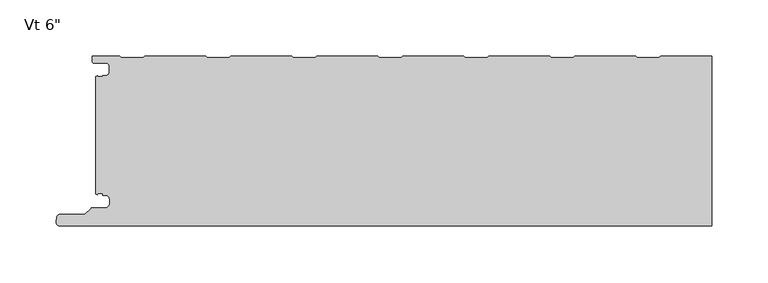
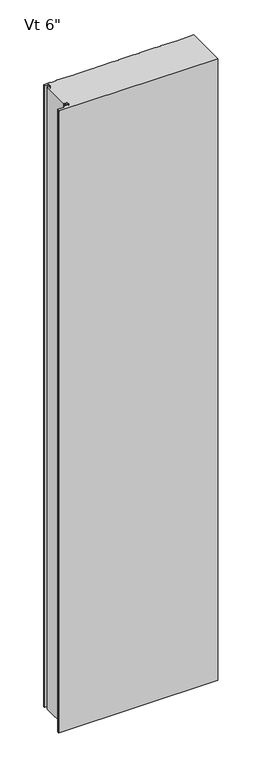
"""IFC4 building model written with IfcOpenShell, lengths in millimetres: plate geometry."""

from ifc_helpers import new_model, si_unit, frame, origin, place, context, project, spatial, polyline, circle_curve, source, transform, mapped, element, save
from ifc_brep_helpers import plane_surface, cylinder_surface, revolved_surface, advanced_brep


def plate_54b02bbf(model_context):
    return source(origin(), model_context, "Body", "AdvancedBrep", [
        advanced_brep(
        [(-271.7683, -124.070875, 2400.0), (-270.567176, -122.9014003, 2400.0), (-266.8087826, -122.9014003, 2400.0), (-266.8087826, -124.2998791, 2400.0), (-264.1096715, -124.2998791, 2400.0), (-260.7596762, -127.6498744, 2400.0), (-260.7596762, -132.0498656, 2400.0), (-264.1096715, -135.3998609, 2400.0), (-275.9205606, -135.3998609, 2400.0), (-277.1226383, -135.8977778, 2400.0), (-282.6247094, -141.3998489, 2400.0), (-304.7198391, -141.3998489, 2400.0), (-307.3765707, -143.6184509, 2400.0), (-307.8125697, -148.6002718, 2400.0), (-305.2521175, -151.3945967, 2400.0), (272.7999998, -151.4, 2400.0), (272.7999998, -1.0, 2400.0), (227.5795537, -1.0, 2400.0), (226.1939207, -2.2002307, 2400.0), (206.8187544, -2.2002307, 2400.0), (205.4331215, -1.0, 2400.0), (151.3797061, -1.0, 2400.0), (149.9940731, -2.2002307, 2400.0), (130.6189068, -2.2002307, 2400.0), (129.2332739, -1.0, 2400.0), (75.1798585, -1.0, 2400.0), (73.7942255, -2.2002307, 2400.0), (54.4190592, -2.2002307, 2400.0), (53.0334263, -1.0, 2400.0), (-1.0199891, -1.0, 2400.0), (-2.4056221, -2.2002307, 2400.0), (-21.7807884, -2.2002307, 2400.0), (-23.1664213, -1.0, 2400.0), (-77.2198367, -1.0, 2400.0), (-78.6054697, -2.2002307, 2400.0), (-97.980636, -2.2002307, 2400.0), (-99.3662689, -1.0, 2400.0), (-153.4196843, -1.0, 2400.0), (-154.8053173, -2.2002307, 2400.0), (-174.1804836, -2.2002307, 2400.0), (-175.5661165, -1.0, 2400.0), (-229.6195319, -1.0, 2400.0), (-231.0051649, -2.2002307, 2400.0), (-250.3803312, -2.2002307, 2400.0), (-251.7659738, -0.9999916, 2400.0), (-276.2662504, -0.9999916, 2400.0), (-276.2662504, -5.2315389, 2400.0), (-274.4962562, -7.0015331, 2400.0), (-264.0762777, -7.0015331, 2400.0), (-260.7762818, -10.301529, 2400.0), (-260.7762818, -14.7015202, 2400.0), (-264.0762775, -18.0015159, 2400.0), (-266.7684873, -18.0015159, 2400.0), (-266.7684873, -19.0015105, 2400.0), (-270.768691, -19.0015105, 2400.0), (-271.7686882, -18.0015192, 2400.0), (-272.7999998, -19.0328308, 2400.0), (-272.7999998, -123.0391751, 2400.0), (-271.7683, -124.070875, 0.0), (-272.7999998, -123.0391751, 0.0), (-272.7999998, -19.0328308, 0.0), (-271.7686882, -18.0015192, 0.0), (-270.768691, -19.0015105, 0.0), (-266.7684873, -19.0015105, 0.0), (-266.7684873, -18.0015159, 0.0), (-264.0762775, -18.0015159, 0.0), (-260.7762818, -14.7015202, 0.0), (-260.7762818, -10.301529, 0.0), (-264.0762777, -7.0015331, 0.0), (-274.4962562, -7.0015331, 0.0), (-276.2662504, -5.2315389, 0.0), (-276.2662504, -0.9999916, 0.0), (-251.7659738, -0.9999916, 0.0), (-250.3803312, -2.2002307, 0.0), (-231.0051649, -2.2002307, 0.0), (-229.6195319, -1.0, 0.0), (-175.5661165, -1.0, 0.0), (-174.1804836, -2.2002307, 0.0), (-154.8053173, -2.2002307, 0.0), (-153.4196843, -1.0, 0.0), (-99.3662689, -1.0, 0.0), (-97.980636, -2.2002307, 0.0), (-78.6054697, -2.2002307, 0.0), (-77.2198367, -1.0, 0.0), (-23.1664213, -1.0, 0.0), (-21.7807884, -2.2002307, 0.0), (-2.4056221, -2.2002307, 0.0), (-1.0199891, -1.0, 0.0), (53.0334263, -1.0, 0.0), (54.4190592, -2.2002307, 0.0), (73.7942255, -2.2002307, 0.0), (75.1798585, -1.0, 0.0), (129.2332739, -1.0, 0.0), (130.6189068, -2.2002307, 0.0), (149.9940731, -2.2002307, 0.0), (151.3797061, -1.0, 0.0), (205.4331215, -1.0, 0.0), (206.8187544, -2.2002307, 0.0), (226.1939207, -2.2002307, 0.0), (227.5795537, -1.0, 0.0), (272.7999998, -1.0, 0.0), (272.7999998, -151.4, 0.0), (-305.2521175, -151.4, 0.0), (-307.8125697, -148.6002718, 0.0), (-307.3765707, -143.6184509, 0.0), (-304.7198391, -141.3998489, 0.0), (-282.6247094, -141.3998489, 0.0), (-277.1226383, -135.8977778, 0.0), (-275.9205606, -135.3998609, 0.0), (-264.1096715, -135.3998609, 0.0), (-260.7596762, -132.0498656, 0.0), (-260.7596762, -127.6498744, 0.0), (-264.1096715, -124.2998791, 0.0), (-266.8087826, -124.2998791, 0.0), (-266.8087826, -122.9014003, 0.0), (-270.567176, -122.9014003, 0.0)],
        [
            (0, 1, circle_curve(frame((-270.5686906, -124.1013969, 2400.0), z_axis=(0.0, 0.0, -1.0), x_axis=(-1.0, 0.0, 0.0)), 1.1999976)),
            (1, 2),
            (2, 3),
            (3, 4),
            (4, 5, circle_curve(frame((-264.1096715, -127.6498744, 2400.0), z_axis=(0.0, 0.0, -1.0), x_axis=(-1.0, 0.0, 0.0)), 3.3499953)),
            (5, 6),
            (6, 7, circle_curve(frame((-264.1096715, -132.0498656, 2400.0), z_axis=(0.0, 0.0, -1.0), x_axis=(-1.0, 0.0, 0.0)), 3.3499953)),
            (7, 8),
            (8, 9, circle_curve(frame((-275.9205606, -137.0998555, 2400.0), z_axis=(0.0, 0.0, 1.0), x_axis=(-1.0, 0.0, 0.0)), 1.6999946)),
            (9, 10),
            (10, 11),
            (11, 12, circle_curve(frame((-304.7198391, -144.0998415, 2400.0), z_axis=(0.0, 0.0, 1.0), x_axis=(-1.0, 0.0, 0.0)), 2.6999926)),
            (12, 13),
            (13, 14, circle_curve(frame((-305.2521175, -148.8243575, 2400.0), z_axis=(0.0, 0.0, 1.0), x_axis=(-1.0, 0.0, 0.0)), 2.5702393)),
            (14, 15),
            (15, 16),
            (16, 17),
            (17, 18),
            (18, 19),
            (19, 20),
            (20, 21),
            (21, 22),
            (22, 23),
            (23, 24),
            (24, 25),
            (25, 26),
            (26, 27),
            (27, 28),
            (28, 29),
            (29, 30),
            (30, 31),
            (31, 32),
            (32, 33),
            (33, 34),
            (34, 35),
            (35, 36),
            (36, 37),
            (37, 38),
            (38, 39),
            (39, 40),
            (40, 41),
            (41, 42),
            (42, 43),
            (43, 44),
            (44, 45),
            (45, 46),
            (46, 47, circle_curve(frame((-274.4962562, -5.2315389, 2400.0), z_axis=(0.0, 0.0, 1.0), x_axis=(1.0, 0.0, 0.0)), 1.7699942)),
            (47, 48),
            (48, 49, circle_curve(frame((-264.0762777, -10.301529, 2400.0), z_axis=(0.0, 0.0, -1.0), x_axis=(1.0, 0.0, 0.0)), 3.2999959)),
            (49, 50),
            (50, 51, circle_curve(frame((-264.0762775, -14.7015202, 2400.0), z_axis=(0.0, 0.0, -1.0), x_axis=(1.0, 0.0, 0.0)), 3.2999957)),
            (51, 52),
            (52, 53),
            (53, 54),
            (54, 55, circle_curve(frame((-270.768691, -18.0015133, 2400.0), z_axis=(0.0, 0.0, -1.0), x_axis=(1.0, 0.0, 0.0)), 0.9999972)),
            (55, 56),
            (56, 57),
            (57, 0),
            (58, 59),
            (59, 60),
            (60, 61),
            (61, 62, circle_curve(frame((-270.768691, -18.0015133, 0.0), z_axis=(0.0, 0.0, 1.0), x_axis=(1.0, 0.0, 0.0)), 0.9999972)),
            (62, 63),
            (63, 64),
            (64, 65),
            (65, 66, circle_curve(frame((-264.0762775, -14.7015202, 0.0), z_axis=(0.0, 0.0, 1.0), x_axis=(1.0, 0.0, 0.0)), 3.2999957)),
            (66, 67),
            (67, 68, circle_curve(frame((-264.0762777, -10.301529, 0.0), z_axis=(0.0, 0.0, 1.0), x_axis=(1.0, 0.0, 0.0)), 3.2999959)),
            (68, 69),
            (69, 70, circle_curve(frame((-274.4962562, -5.2315389, 0.0), z_axis=(0.0, 0.0, -1.0), x_axis=(1.0, 0.0, 0.0)), 1.7699942)),
            (70, 71),
            (71, 72),
            (72, 73),
            (73, 74),
            (74, 75),
            (75, 76),
            (76, 77),
            (77, 78),
            (78, 79),
            (79, 80),
            (80, 81),
            (81, 82),
            (82, 83),
            (83, 84),
            (84, 85),
            (85, 86),
            (86, 87),
            (87, 88),
            (88, 89),
            (89, 90),
            (90, 91),
            (91, 92),
            (92, 93),
            (93, 94),
            (94, 95),
            (95, 96),
            (96, 97),
            (97, 98),
            (98, 99),
            (99, 100),
            (100, 101),
            (101, 102),
            (102, 103, circle_curve(frame((-305.2521175, -148.8243575, 0.0), z_axis=(0.0, 0.0, -1.0), x_axis=(-1.0, 0.0, 0.0)), 2.5702393)),
            (103, 104),
            (104, 105, circle_curve(frame((-304.7198391, -144.0998415, 0.0), z_axis=(0.0, 0.0, -1.0), x_axis=(-1.0, 0.0, 0.0)), 2.6999926)),
            (105, 106),
            (106, 107),
            (107, 108, circle_curve(frame((-275.9205606, -137.0998555, 0.0), z_axis=(0.0, 0.0, -1.0), x_axis=(-1.0, 0.0, 0.0)), 1.6999946)),
            (108, 109),
            (109, 110, circle_curve(frame((-264.1096715, -132.0498656, 0.0), z_axis=(0.0, 0.0, 1.0), x_axis=(-1.0, 0.0, 0.0)), 3.3499953)),
            (110, 111),
            (111, 112, circle_curve(frame((-264.1096715, -127.6498744, 0.0), z_axis=(0.0, 0.0, 1.0), x_axis=(-1.0, 0.0, 0.0)), 3.3499953)),
            (112, 113),
            (113, 114),
            (114, 115),
            (115, 58, circle_curve(frame((-270.5686906, -124.1013969, 0.0), z_axis=(0.0, 0.0, 1.0), x_axis=(-1.0, 0.0, 0.0)), 1.1999976)),
            (57, 59),
            (58, 0),
            (56, 60),
            (101, 15),
            (14, 102),
            (13, 103),
            (12, 104),
            (11, 105),
            (10, 106),
            (9, 107),
            (8, 108),
            (7, 109),
            (6, 110),
            (5, 111),
            (4, 112),
            (3, 113),
            (2, 114),
            (1, 115),
            (55, 61),
            (54, 62),
            (53, 63),
            (52, 64),
            (51, 65),
            (50, 66),
            (49, 67),
            (48, 68),
            (47, 69),
            (46, 70),
            (45, 71),
            (44, 72),
            (100, 16),
            (43, 73),
            (42, 74),
            (41, 75),
            (40, 76),
            (39, 77),
            (38, 78),
            (37, 79),
            (36, 80),
            (35, 81),
            (34, 82),
            (33, 83),
            (32, 84),
            (31, 85),
            (30, 86),
            (29, 87),
            (28, 88),
            (27, 89),
            (26, 90),
            (25, 91),
            (24, 92),
            (23, 93),
            (22, 94),
            (21, 95),
            (20, 96),
            (19, 97),
            (18, 98),
            (17, 99),
        ],
        [
            plane_surface(frame((184.4000002, -151.4, 2400.0), z_axis=(0.0, 0.0, 1.0), x_axis=(0.0, -1.0, 0.0))),
            plane_surface(frame((184.4000002, -151.4, 0.0), z_axis=(0.0, 0.0, -1.0), x_axis=(0.0, -1.0, 0.0))),
            plane_surface(frame((-271.7683, -124.070875, 2400.0), z_axis=(-0.707106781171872, -0.7071067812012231, 0.0), x_axis=(0.0, 0.0, -1.0))),
            plane_surface(frame((-272.7999998, -123.0391751, 2400.0), z_axis=(-1.0, 0.0, 0.0), x_axis=(0.0, 0.0, -1.0))),
            plane_surface(frame((593.1156221, -151.4, 2400.0), z_axis=(0.0, -1.0, 0.0), x_axis=(0.0, 0.0, -1.0))),
            cylinder_surface(frame((-305.2521175, -148.8243575, 2400.0), z_axis=(0.0, 0.0, 1.0), x_axis=(-1.0, 0.0, 0.0)), 2.5702393),
            plane_surface(frame((-307.8125697, -148.6002718, 2400.0), z_axis=(-0.9961921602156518, 0.08718474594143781, 0.0), x_axis=(0.0, 0.0, -1.0))),
            cylinder_surface(frame((-304.7198391, -144.0998415, 2400.0), z_axis=(0.0, 0.0, 1.0), x_axis=(-1.0, 0.0, 0.0)), 2.6999926),
            plane_surface(frame((-304.7198391, -141.3998489, 2400.0), z_axis=(0.0, 1.0, 0.0), x_axis=(0.0, 0.0, -1.0))),
            plane_surface(frame((-282.6247094, -141.3998489, 2400.0), z_axis=(-0.707106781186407, 0.7071067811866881, 0.0), x_axis=(0.0, 0.0, -1.0))),
            cylinder_surface(frame((-275.9205606, -137.0998555, 2400.0), z_axis=(0.0, 0.0, 1.0), x_axis=(-1.0, 0.0, 0.0)), 1.6999946),
            plane_surface(frame((-275.9205606, -135.3998609, 2400.0), z_axis=(0.0, 1.0, 0.0), x_axis=(0.0, 0.0, -1.0))),
            revolved_surface(polyline([(-267.4596668, -132.0498656, 0.0), (-267.4596668, -132.0498656, 2400.0)]), (-264.1096715, -132.0498656, 2400.0), (0.0, 0.0, -1.0)),
            plane_surface(frame((-260.7596762, -132.0498656, 2400.0), z_axis=(-1.0, 0.0, 0.0), x_axis=(0.0, 0.0, -1.0))),
            revolved_surface(polyline([(-267.4596668, -127.6498744, 0.0), (-267.4596668, -127.6498744, 2400.0)]), (-264.1096715, -127.6498744, 2400.0), (0.0, 0.0, -1.0)),
            plane_surface(frame((-264.1096715, -124.2998791, 2400.0), z_axis=(0.0, -1.0, 0.0), x_axis=(0.0, 0.0, -1.0))),
            plane_surface(frame((-266.8087826, -124.2998791, 2400.0), z_axis=(-1.0, 0.0, 0.0), x_axis=(0.0, 0.0, -1.0))),
            plane_surface(frame((-266.8087826, -122.9014003, 2400.0), z_axis=(0.0, -1.0, 0.0), x_axis=(0.0, 0.0, -1.0))),
            revolved_surface(polyline([(-271.76868820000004, -124.1013969, 0.0), (-271.76868820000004, -124.1013969, 2400.0)]), (-270.5686906, -124.1013969, 2400.0), (0.0, 0.0, -1.0)),
            plane_surface(frame((-272.7999998, -19.0328308, 2400.0), z_axis=(-0.7071067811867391, 0.707106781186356, 0.0), x_axis=(0.0, 0.0, -1.0))),
            revolved_surface(polyline([(-269.7686938, -18.0015133, 0.0), (-269.7686938, -18.0015133, 2400.0)]), (-270.768691, -18.0015133, 2400.0), (0.0, 0.0, -1.0)),
            plane_surface(frame((-270.768691, -19.0015105, 2400.0), z_axis=(0.0, 1.0, 0.0), x_axis=(0.0, 0.0, -1.0))),
            plane_surface(frame((-266.7684873, -19.0015105, 2400.0), z_axis=(-1.0, 0.0, 0.0), x_axis=(0.0, 0.0, -1.0))),
            plane_surface(frame((-266.7684873, -18.0015159, 2400.0), z_axis=(0.0, 1.0, 0.0), x_axis=(0.0, 0.0, -1.0))),
            revolved_surface(polyline([(-260.7762818, -14.7015202, 0.0), (-260.7762818, -14.7015202, 2400.0)]), (-264.0762775, -14.7015202, 2400.0), (0.0, 0.0, -1.0)),
            plane_surface(frame((-260.7762818, -14.7015202, 2400.0), z_axis=(-1.0, 0.0, 0.0), x_axis=(0.0, 0.0, -1.0))),
            revolved_surface(polyline([(-260.7762818, -10.301529, 0.0), (-260.7762818, -10.301529, 2400.0)]), (-264.0762777, -10.301529, 2400.0), (0.0, 0.0, -1.0)),
            plane_surface(frame((-264.0762777, -7.0015331, 2400.0), z_axis=(0.0, -1.0, 0.0), x_axis=(0.0, 0.0, -1.0))),
            cylinder_surface(frame((-274.4962562, -5.2315389, 2400.0), z_axis=(0.0, 0.0, 1.0), x_axis=(1.0, 0.0, 0.0)), 1.7699942),
            plane_surface(frame((-276.2662504, -5.2315389, 2400.0), z_axis=(-1.0, 0.0, 0.0), x_axis=(0.0, 0.0, -1.0))),
            plane_surface(frame((-276.2662504, -0.9999916, 2400.0), z_axis=(0.0, 1.0, 0.0), x_axis=(0.0, 0.0, -1.0))),
            plane_surface(frame((272.7999998, -162.4, 2400.0), z_axis=(1.0, 0.0, 0.0), x_axis=(0.0, 0.0, -1.0))),
            plane_surface(frame((-251.7659738, -0.9999916, 2400.0), z_axis=(0.6547276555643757, 0.7558648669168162, 0.0), x_axis=(0.0, 0.0, -1.0))),
            plane_surface(frame((-250.3803312, -2.2002307, 2400.0), z_axis=(0.0, 1.0, 0.0), x_axis=(0.0, 0.0, -1.0))),
            plane_surface(frame((-231.0051649, -2.2002307, 2400.0), z_axis=(-0.6547276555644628, 0.7558648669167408, 0.0), x_axis=(0.0, 0.0, -1.0))),
            plane_surface(frame((-229.6195319, -1.0, 2400.0), z_axis=(0.0, 1.0, 0.0), x_axis=(0.0, 0.0, -1.0))),
            plane_surface(frame((-175.5661165, -1.0, 2400.0), z_axis=(0.6547276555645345, 0.7558648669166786, 0.0), x_axis=(0.0, 0.0, -1.0))),
            plane_surface(frame((-174.1804836, -2.2002307, 2400.0), z_axis=(0.0, 1.0, 0.0), x_axis=(0.0, 0.0, -1.0))),
            plane_surface(frame((-154.8053173, -2.2002307, 2400.0), z_axis=(-0.654727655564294, 0.755864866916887, 0.0), x_axis=(0.0, 0.0, -1.0))),
            plane_surface(frame((-153.4196843, -1.0, 2400.0), z_axis=(0.0, 1.0, 0.0), x_axis=(0.0, 0.0, -1.0))),
            plane_surface(frame((-99.3662689, -1.0, 2400.0), z_axis=(0.6547276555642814, 0.7558648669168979, 0.0), x_axis=(0.0, 0.0, -1.0))),
            plane_surface(frame((-97.980636, -2.2002307, 2400.0), z_axis=(0.0, 1.0, 0.0), x_axis=(0.0, 0.0, -1.0))),
            plane_surface(frame((-78.6054697, -2.2002307, 2400.0), z_axis=(-0.6547276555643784, 0.7558648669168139, 0.0), x_axis=(0.0, 0.0, -1.0))),
            plane_surface(frame((-77.2198367, -1.0, 2400.0), z_axis=(0.0, 1.0, 0.0), x_axis=(0.0, 0.0, -1.0))),
            plane_surface(frame((-23.1664213, -1.0, 2400.0), z_axis=(0.6547276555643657, 0.7558648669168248, 0.0), x_axis=(0.0, 0.0, -1.0))),
            plane_surface(frame((-21.7807884, -2.2002307, 2400.0), z_axis=(0.0, 1.0, 0.0), x_axis=(0.0, 0.0, -1.0))),
            plane_surface(frame((-2.4056221, -2.2002307, 2400.0), z_axis=(-0.6547276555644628, 0.7558648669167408, 0.0), x_axis=(0.0, 0.0, -1.0))),
            plane_surface(frame((-1.0199891, -1.0, 2400.0), z_axis=(0.0, 1.0, 0.0), x_axis=(0.0, 0.0, -1.0))),
            plane_surface(frame((53.0334263, -1.0, 2400.0), z_axis=(0.6547276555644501, 0.7558648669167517, 0.0), x_axis=(0.0, 0.0, -1.0))),
            plane_surface(frame((54.4190592, -2.2002307, 2400.0), z_axis=(0.0, 1.0, 0.0), x_axis=(0.0, 0.0, -1.0))),
            plane_surface(frame((73.7942255, -2.2002307, 2400.0), z_axis=(-0.6547276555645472, 0.7558648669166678, 0.0), x_axis=(0.0, 0.0, -1.0))),
            plane_surface(frame((75.1798585, -1.0, 2400.0), z_axis=(0.0, 1.0, 0.0), x_axis=(0.0, 0.0, -1.0))),
            plane_surface(frame((129.2332739, -1.0, 2400.0), z_axis=(0.6547276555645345, 0.7558648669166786, 0.0), x_axis=(0.0, 0.0, -1.0))),
            plane_surface(frame((130.6189068, -2.2002307, 2400.0), z_axis=(0.0, 1.0, 0.0), x_axis=(0.0, 0.0, -1.0))),
            plane_surface(frame((149.9940731, -2.2002307, 2400.0), z_axis=(-0.6547276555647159, 0.7558648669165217, 0.0), x_axis=(0.0, 0.0, -1.0))),
            plane_surface(frame((151.3797061, -1.0, 2400.0), z_axis=(0.0, 1.0, 0.0), x_axis=(0.0, 0.0, -1.0))),
            plane_surface(frame((205.4331215, -1.0, 2400.0), z_axis=(0.6547276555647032, 0.7558648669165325, 0.0), x_axis=(0.0, 0.0, -1.0))),
            plane_surface(frame((206.8187544, -2.2002307, 2400.0), z_axis=(0.0, 1.0, 0.0), x_axis=(0.0, 0.0, -1.0))),
            plane_surface(frame((226.1939207, -2.2002307, 2400.0), z_axis=(-0.6547276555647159, 0.7558648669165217, 0.0), x_axis=(0.0, 0.0, -1.0))),
            plane_surface(frame((227.5795537, -1.0, 2400.0), z_axis=(0.0, 1.0, 0.0), x_axis=(0.0, 0.0, -1.0))),
        ],
        [
            (0, [[1, 2, 3, 4, 5, 6, 7, 8, 9, 10, 11, 12, 13, 14, 15, 16, 17, 18, 19, 20, 21, 22, 23, 24, 25, 26, 27, 28, 29, 30, 31, 32, 33, 34, 35, 36, 37, 38, 39, 40, 41, 42, 43, 44, 45, 46, 47, 48, 49, 50, 51, 52, 53, 54, 55, 56, 57, 58]]),
            (1, [[59, 60, 61, 62, 63, 64, 65, 66, 67, 68, 69, 70, 71, 72, 73, 74, 75, 76, 77, 78, 79, 80, 81, 82, 83, 84, 85, 86, 87, 88, 89, 90, 91, 92, 93, 94, 95, 96, 97, 98, 99, 100, 101, 102, 103, 104, 105, 106, 107, 108, 109, 110, 111, 112, 113, 114, 115, 116]]),
            (2, [[117, -59, 118, -58]]),
            (3, [[-57, 119, -60, -117]]),
            (4, [[-102, 120, -15, 121]]),
            (5, [[122, -103, -121, -14]]),
            (6, [[123, -104, -122, -13]]),
            (7, [[124, -105, -123, -12]]),
            (8, [[125, -106, -124, -11]]),
            (9, [[126, -107, -125, -10]]),
            (10, [[127, -108, -126, -9]]),
            (11, [[128, -109, -127, -8]]),
            (12, [[129, -110, -128, -7]]),
            (13, [[130, -111, -129, -6]]),
            (14, [[131, -112, -130, -5]]),
            (15, [[132, -113, -131, -4]]),
            (16, [[133, -114, -132, -3]]),
            (17, [[134, -115, -133, -2]]),
            (18, [[-118, -116, -134, -1]]),
            (19, [[135, -61, -119, -56]]),
            (20, [[136, -62, -135, -55]]),
            (21, [[137, -63, -136, -54]]),
            (22, [[138, -64, -137, -53]]),
            (23, [[139, -65, -138, -52]]),
            (24, [[140, -66, -139, -51]]),
            (25, [[141, -67, -140, -50]]),
            (26, [[142, -68, -141, -49]]),
            (27, [[143, -69, -142, -48]]),
            (28, [[144, -70, -143, -47]]),
            (29, [[145, -71, -144, -46]]),
            (30, [[146, -72, -145, -45]]),
            (31, [[-120, -101, 147, -16]]),
            (32, [[148, -73, -146, -44]]),
            (33, [[149, -74, -148, -43]]),
            (34, [[150, -75, -149, -42]]),
            (35, [[151, -76, -150, -41]]),
            (36, [[152, -77, -151, -40]]),
            (37, [[153, -78, -152, -39]]),
            (38, [[154, -79, -153, -38]]),
            (39, [[155, -80, -154, -37]]),
            (40, [[156, -81, -155, -36]]),
            (41, [[157, -82, -156, -35]]),
            (42, [[158, -83, -157, -34]]),
            (43, [[159, -84, -158, -33]]),
            (44, [[160, -85, -159, -32]]),
            (45, [[161, -86, -160, -31]]),
            (46, [[162, -87, -161, -30]]),
            (47, [[163, -88, -162, -29]]),
            (48, [[164, -89, -163, -28]]),
            (49, [[165, -90, -164, -27]]),
            (50, [[166, -91, -165, -26]]),
            (51, [[167, -92, -166, -25]]),
            (52, [[168, -93, -167, -24]]),
            (53, [[169, -94, -168, -23]]),
            (54, [[170, -95, -169, -22]]),
            (55, [[171, -96, -170, -21]]),
            (56, [[172, -97, -171, -20]]),
            (57, [[173, -98, -172, -19]]),
            (58, [[174, -99, -173, -18]]),
            (59, [[-17, -147, -100, -174]]),
        ],
    ),
    ])


if __name__ == "__main__":
    model = new_model("IFC4")
    model_context = context("Model", 3, world=origin())
    ifc_project = project(units=[si_unit("LENGTHUNIT", "METRE", prefix="MILLI")], contexts=[model_context])
    site = spatial("IfcSite", under=ifc_project)
    building = spatial("IfcBuilding", under=site)
    placement = place(None, origin())
    plate_shape = plate_54b02bbf(model_context)
    element("IfcPlate", 1, ObjectType="KIP-36-Karrier-KP-R19-CP-Vt-FL3-8in_SL : Vt 6\"", at=placement, inside=building, context=model_context, shape_type="MappedRepresentation", body=[
        mapped(plate_shape, transform((0.0, 0.0, 0.0), x_axis=(1.0, 0.0, 0.0), y_axis=(0.0, 1.0, 0.0), z_axis=(0.0, 0.0, 1.0))),
    ])
    save(model, "model.ifc")
